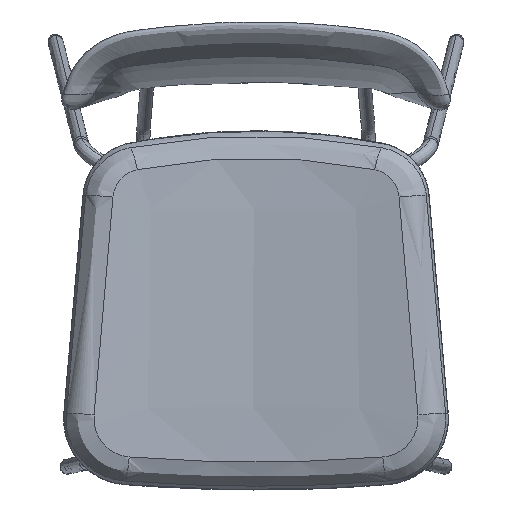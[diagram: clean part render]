
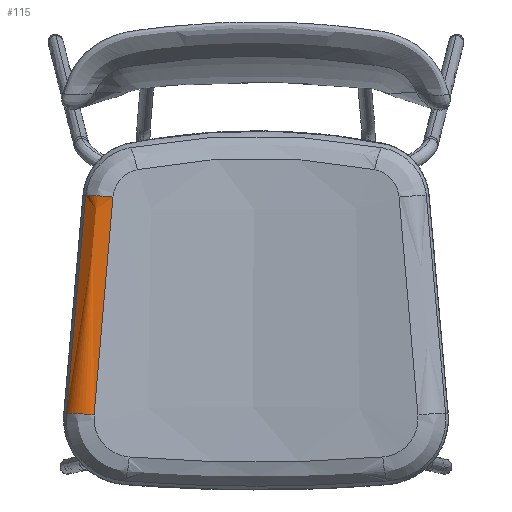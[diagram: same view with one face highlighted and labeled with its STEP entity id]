
A CAD part, top view. The second image highlights one B-rep face of the part: STEP entity #115.
In plain terms, the highlighted free-form (B-spline) face has degree [2, 3] with [3, 8] control points.
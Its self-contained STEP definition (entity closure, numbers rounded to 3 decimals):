
#115=ADVANCED_FACE('',(#225),#1645,.T.);
#225=FACE_OUTER_BOUND('',#335,.T.);
#335=EDGE_LOOP('',(#693,#694,#695,#696));
#693=ORIENTED_EDGE('',*,*,#1048,.F.);
#694=ORIENTED_EDGE('',*,*,#1050,.F.);
#695=ORIENTED_EDGE('',*,*,#1051,.T.);
#696=ORIENTED_EDGE('',*,*,#1052,.T.);
#1048=EDGE_CURVE('',#1539,#1544,#1223,.T.);
#1050=EDGE_CURVE('',#1538,#1539,#1225,.T.);
#1051=EDGE_CURVE('',#1538,#1527,#1226,.T.);
#1052=EDGE_CURVE('',#1527,#1544,#1227,.T.);
#1223=(
BOUNDED_CURVE()
B_SPLINE_CURVE(2,(#25826,#25827,#25828),.UNSPECIFIED.,.F.,.F.)
B_SPLINE_CURVE_WITH_KNOTS((3,3),(-1.,0.),.UNSPECIFIED.)
CURVE()
GEOMETRIC_REPRESENTATION_ITEM()
RATIONAL_B_SPLINE_CURVE((1.,0.796,1.))
REPRESENTATION_ITEM('')
);
#1225=(
BOUNDED_CURVE()
B_SPLINE_CURVE(3,(#25958,#25959,#25960,#25961,#25962,#25963,#25964,#25965),
 .UNSPECIFIED.,.F.,.F.)
B_SPLINE_CURVE_WITH_KNOTS((4,1,1,1,1,4),(-713.936,-697.787,
-681.639,-649.342,-584.748,-455.56),
 .UNSPECIFIED.)
CURVE()
GEOMETRIC_REPRESENTATION_ITEM()
RATIONAL_B_SPLINE_CURVE((1.,1.,1.,1.,1.,1.,1.,1.))
REPRESENTATION_ITEM('')
);
#1226=(
BOUNDED_CURVE()
B_SPLINE_CURVE(2,(#25966,#25967,#25968),.UNSPECIFIED.,.F.,.F.)
B_SPLINE_CURVE_WITH_KNOTS((3,3),(-1.,0.),.UNSPECIFIED.)
CURVE()
GEOMETRIC_REPRESENTATION_ITEM()
RATIONAL_B_SPLINE_CURVE((1.,0.801,1.))
REPRESENTATION_ITEM('')
);
#1227=(
BOUNDED_CURVE()
B_SPLINE_CURVE(3,(#25969,#25970,#25971,#25972,#25973,#25974,#25975,#25976),
 .UNSPECIFIED.,.F.,.F.)
B_SPLINE_CURVE_WITH_KNOTS((4,1,1,1,1,4),(-713.936,-697.787,
-681.639,-649.342,-584.748,-455.56),
 .UNSPECIFIED.)
CURVE()
GEOMETRIC_REPRESENTATION_ITEM()
RATIONAL_B_SPLINE_CURVE((1.,1.,1.,1.,1.,1.,1.,1.))
REPRESENTATION_ITEM('')
);
#1527=VERTEX_POINT('',#25234);
#1538=VERTEX_POINT('',#25245);
#1539=VERTEX_POINT('',#25246);
#1544=VERTEX_POINT('',#25251);
#1645=(
BOUNDED_SURFACE()
B_SPLINE_SURFACE(2,3,((#21711,#21712,#21713,#21714,#21715,#21716,#21717,
#21718),(#21719,#21720,#21721,#21722,#21723,#21724,#21725,#21726),(#21727,
#21728,#21729,#21730,#21731,#21732,#21733,#21734)),.UNSPECIFIED.,.F.,.F.,
 .F.)
B_SPLINE_SURFACE_WITH_KNOTS((3,3),(4,1,1,1,1,4),(0.,1.),(455.56,
584.748,649.342,681.639,697.787,713.936),
 .UNSPECIFIED.)
GEOMETRIC_REPRESENTATION_ITEM()
RATIONAL_B_SPLINE_SURFACE(((1.,1.,1.,1.,1.,1.,1.,1.),(0.796,
0.797,0.798,0.8,0.801,0.801,
0.801,0.801),(1.,1.,1.,1.,1.,1.,1.,1.)))
REPRESENTATION_ITEM('')
SURFACE()
);
#21711=CARTESIAN_POINT('',(4107.132,-1041.974,58.787));
#21712=CARTESIAN_POINT('',(4107.513,-1037.663,58.58));
#21713=CARTESIAN_POINT('',(4108.085,-1031.195,58.272));
#21714=CARTESIAN_POINT('',(4108.752,-1023.649,57.917));
#21715=CARTESIAN_POINT('',(4109.086,-1019.876,57.74));
#21716=CARTESIAN_POINT('',(4109.277,-1017.72,57.64));
#21717=CARTESIAN_POINT('',(4109.372,-1016.642,57.59));
#21718=CARTESIAN_POINT('',(4109.42,-1016.102,57.565));
#21719=CARTESIAN_POINT('',(4108.185,-1041.97,60.827));
#21720=CARTESIAN_POINT('',(4108.562,-1037.659,60.614));
#21721=CARTESIAN_POINT('',(4109.128,-1031.192,60.297));
#21722=CARTESIAN_POINT('',(4109.788,-1023.646,59.932));
#21723=CARTESIAN_POINT('',(4110.118,-1019.874,59.75));
#21724=CARTESIAN_POINT('',(4110.306,-1017.718,59.647));
#21725=CARTESIAN_POINT('',(4110.401,-1016.64,59.595));
#21726=CARTESIAN_POINT('',(4110.448,-1016.101,59.569));
#21727=CARTESIAN_POINT('',(4110.423,-1042.19,60.363));
#21728=CARTESIAN_POINT('',(4110.794,-1037.878,60.159));
#21729=CARTESIAN_POINT('',(4111.352,-1031.409,59.856));
#21730=CARTESIAN_POINT('',(4112.002,-1023.862,59.506));
#21731=CARTESIAN_POINT('',(4112.327,-1020.089,59.332));
#21732=CARTESIAN_POINT('',(4112.513,-1017.932,59.234));
#21733=CARTESIAN_POINT('',(4112.606,-1016.854,59.184));
#21734=CARTESIAN_POINT('',(4112.653,-1016.315,59.16));
#25234=CARTESIAN_POINT('',(4109.42,-1016.102,57.565));
#25245=CARTESIAN_POINT('',(4112.653,-1016.315,59.16));
#25246=CARTESIAN_POINT('',(4110.423,-1042.19,60.363));
#25251=CARTESIAN_POINT('',(4107.132,-1041.974,58.787));
#25826=CARTESIAN_POINT('',(4110.423,-1042.19,60.363));
#25827=CARTESIAN_POINT('',(4108.185,-1041.97,60.827));
#25828=CARTESIAN_POINT('',(4107.132,-1041.974,58.787));
#25958=CARTESIAN_POINT('',(4112.653,-1016.315,59.16));
#25959=CARTESIAN_POINT('',(4112.606,-1016.854,59.184));
#25960=CARTESIAN_POINT('',(4112.513,-1017.932,59.234));
#25961=CARTESIAN_POINT('',(4112.327,-1020.089,59.332));
#25962=CARTESIAN_POINT('',(4112.002,-1023.862,59.506));
#25963=CARTESIAN_POINT('',(4111.352,-1031.409,59.856));
#25964=CARTESIAN_POINT('',(4110.794,-1037.878,60.159));
#25965=CARTESIAN_POINT('',(4110.423,-1042.19,60.363));
#25966=CARTESIAN_POINT('',(4112.653,-1016.315,59.16));
#25967=CARTESIAN_POINT('',(4110.448,-1016.101,59.569));
#25968=CARTESIAN_POINT('',(4109.42,-1016.102,57.565));
#25969=CARTESIAN_POINT('',(4109.42,-1016.102,57.565));
#25970=CARTESIAN_POINT('',(4109.372,-1016.642,57.59));
#25971=CARTESIAN_POINT('',(4109.277,-1017.72,57.64));
#25972=CARTESIAN_POINT('',(4109.086,-1019.876,57.74));
#25973=CARTESIAN_POINT('',(4108.752,-1023.649,57.917));
#25974=CARTESIAN_POINT('',(4108.085,-1031.195,58.272));
#25975=CARTESIAN_POINT('',(4107.513,-1037.663,58.58));
#25976=CARTESIAN_POINT('',(4107.132,-1041.974,58.787));
